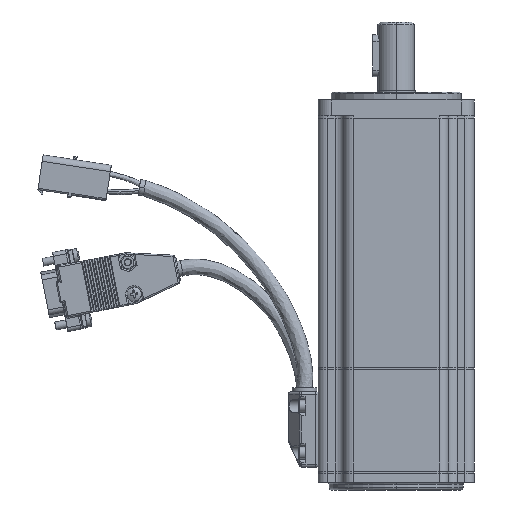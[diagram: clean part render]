
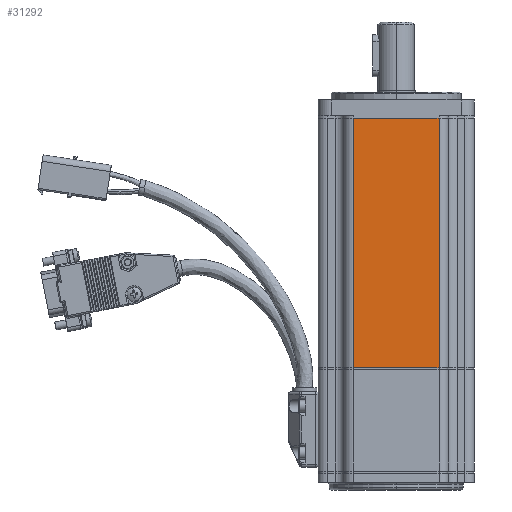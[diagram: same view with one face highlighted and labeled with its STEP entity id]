
A CAD part, left-side view. The second image highlights one B-rep face of the part: STEP entity #31292.
In plain terms, the highlighted planar face has unit normal (-1, 0, 0) as drawn and (0, -1, 0) by its records, which use the part's own axes.
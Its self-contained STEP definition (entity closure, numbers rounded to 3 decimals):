
#9228 = VERTEX_POINT ( 'NONE', #39133 ) ;
#9230 = VERTEX_POINT ( 'NONE', #39128 ) ;
#9252 = VERTEX_POINT ( 'NONE', #39098 ) ;
#9253 = VERTEX_POINT ( 'NONE', #39099 ) ;
#20386 = EDGE_CURVE ( 'NONE', #9252, #9228, #60451, .T. ) ;
#20389 = EDGE_CURVE ( 'NONE', #9230, #9253, #60452, .T. ) ;
#20439 = EDGE_CURVE ( 'NONE', #9253, #9252, #60471, .T. ) ;
#20816 = EDGE_CURVE ( 'NONE', #9230, #9228, #60429, .T. ) ;
#23182 = EDGE_LOOP ( 'NONE', ( #51121, #51434, #51582, #51249 ) ) ;
#31292 = ADVANCED_FACE ( 'NONE', ( #57350 ), #59629, .F. ) ;
#39098 = CARTESIAN_POINT ( 'NONE',  ( 16.5, -30., 0. ) ) ;
#39099 = CARTESIAN_POINT ( 'NONE',  ( -16.5, -30., 0. ) ) ;
#39128 = CARTESIAN_POINT ( 'NONE',  ( -16.5, -30., 96. ) ) ;
#39133 = CARTESIAN_POINT ( 'NONE',  ( 16.5, -30., 96. ) ) ;
#41578 = CARTESIAN_POINT ( 'NONE',  ( 16.5, -30., 96. ) ) ;
#41579 = DIRECTION ( 'NONE',  ( 0., 0., 1. ) ) ;
#41580 = CARTESIAN_POINT ( 'NONE',  ( -16.5, -30., 96. ) ) ;
#41581 = DIRECTION ( 'NONE',  ( 0., 0., -1. ) ) ;
#41636 = CARTESIAN_POINT ( 'NONE',  ( -20., -30., 0. ) ) ;
#41637 = DIRECTION ( 'NONE',  ( 1., 0., 0. ) ) ;
#47403 = VECTOR ( 'NONE', #41579, 1000. ) ;
#47404 = VECTOR ( 'NONE', #41581, 1000. ) ;
#47438 = VECTOR ( 'NONE', #41637, 1000. ) ;
#47859 = VECTOR ( 'NONE', #64497, 1000. ) ;
#51121 = ORIENTED_EDGE ( 'NONE', *, *, #20816, .F. ) ;
#51249 = ORIENTED_EDGE ( 'NONE', *, *, #20386, .T. ) ;
#51434 = ORIENTED_EDGE ( 'NONE', *, *, #20389, .T. ) ;
#51582 = ORIENTED_EDGE ( 'NONE', *, *, #20439, .T. ) ;
#56140 = AXIS2_PLACEMENT_3D ( 'NONE', #59630, #59631, #59632 ) ;
#57350 = FACE_OUTER_BOUND ( 'NONE', #23182, .T. ) ;
#59629 = PLANE ( 'NONE',  #56140 ) ;
#59630 = CARTESIAN_POINT ( 'NONE',  ( -20., -30., 96. ) ) ;
#59631 = DIRECTION ( 'NONE',  ( 0., 1., 0. ) ) ;
#59632 = DIRECTION ( 'NONE',  ( 0., 0., 1. ) ) ;
#60429 = LINE ( 'NONE', #64496, #47859 ) ;
#60451 = LINE ( 'NONE', #41578, #47403 ) ;
#60452 = LINE ( 'NONE', #41580, #47404 ) ;
#60471 = LINE ( 'NONE', #41636, #47438 ) ;
#64496 = CARTESIAN_POINT ( 'NONE',  ( -20., -30., 96. ) ) ;
#64497 = DIRECTION ( 'NONE',  ( 1., 0., 0. ) ) ;
